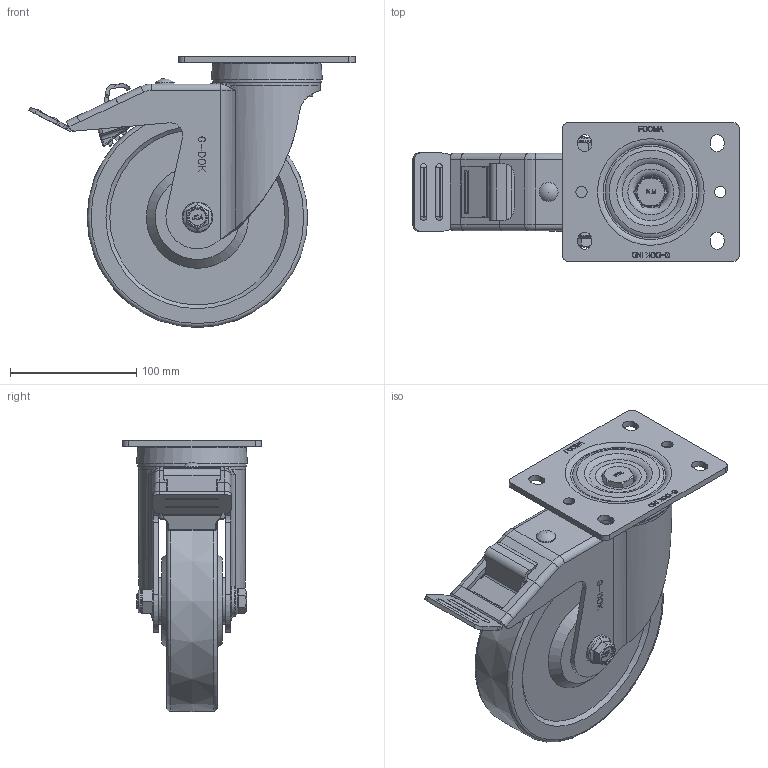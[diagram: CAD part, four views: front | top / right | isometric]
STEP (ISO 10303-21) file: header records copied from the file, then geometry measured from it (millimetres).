
FILE_DESCRIPTION(/* description */ (''),/* implementation_level */ '2;1');
FILE_NAME(/* name */ '\\192.168.10.38\지덕공유\1.기술연구소\2.연구개발 진행중\28.PLM-SERIES_MEDIUM\제품설계\홈페이지용 도면\PLM-175-BSF-MCD-PEU.stp',/* time_stamp */ '2022-03-04T18:27:33+09:00',/* author */ ('admin'),/* organization */ (''),/* preprocessor_version */ 'ST-DEVELOPER v18.1',/* originating_system */ 'Autodesk Inventor 2021',/* authorisation */ '');
FILE_SCHEMA (('AUTOMOTIVE_DESIGN { 1 0 10303 214 3 1 1 }'));
Products named in the file (1): PLM-175-BSF-MCD-PEU
Bounding box: 258.62 x 110 x 215 mm (x, y, z)
Volume: 1290138 mm3; surface area: 205978.3 mm2
Topology: 3 solids, 3 shells, 1645 faces, 4457 edges, 2863 vertices
Faces by surface type: plane 904, cylinder 377, bspline 247, cone 52, torus 40, sphere 25
Full cylindrical faces by diameter (mm): 0.136 x1, 3 x1, 3.2 x3, 6 x2, 9 x3, 12 x1, 14 x1, 15 x1, 16 x1, 18.5 x1, 24 x1, 37 x2, 64.8 x1, 72.8 x1, 85.857 x1
Entity records: 58484 total; most frequent: CARTESIAN_POINT 18571, ORIENTED_EDGE 8868, DIRECTION 7493, EDGE_CURVE 4434, VERTEX_POINT 2863, LINE 2731, VECTOR 2731, AXIS2_PLACEMENT_3D 2381
